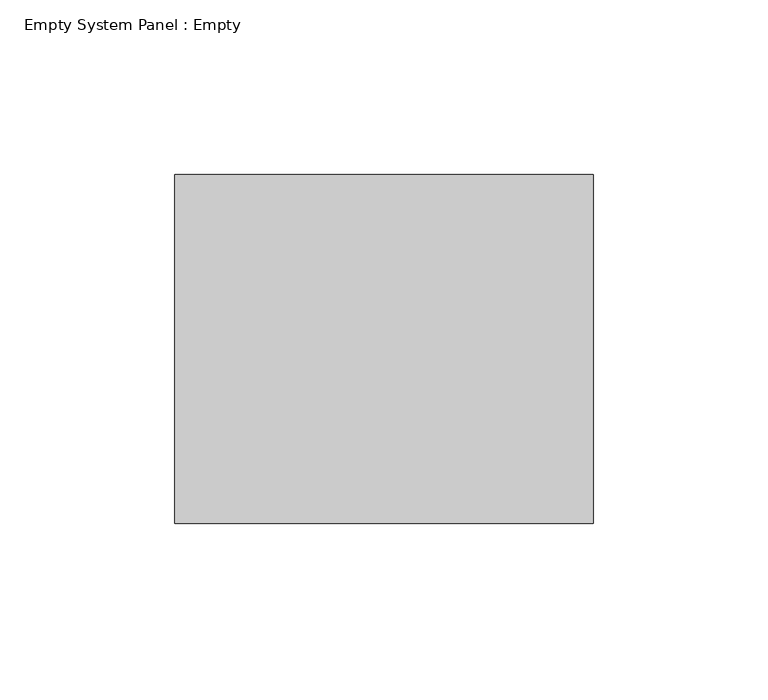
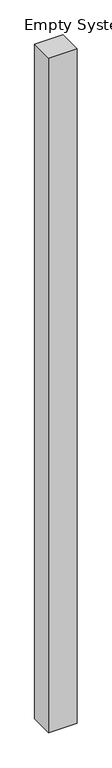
"""IFC4 building model written with IfcOpenShell, lengths in millimetres: plate geometry, Empty System Panel : Empty."""

from ifc_helpers import new_model, si_unit, origin, origin_with_axes, place, context, project, spatial, polyline, outline, extrude, source, transform, mapped, element, save


def empty_system_panel_empty_fc5d9536(model_context):
    return source(origin(), model_context, "Body", "SweptSolid", [
        extrude(outline(polyline([(60.0000002, 50.0), (-60.0000002, 50.0), (-60.0000002, 150.0), (60.0000002, 150.0), (60.0000002, 50.0)])), origin_with_axes(), (0.0, 0.0, 1.0), 3000.0),
    ])


if __name__ == "__main__":
    model = new_model("IFC4")
    model_context = context("Model", 3, world=origin())
    ifc_project = project(units=[si_unit("LENGTHUNIT", "METRE", prefix="MILLI")], contexts=[model_context])
    site = spatial("IfcSite", under=ifc_project)
    building = spatial("IfcBuilding", under=site)
    placement = place(None, origin())
    empty_system_panel_empty_shape = empty_system_panel_empty_fc5d9536(model_context)
    element("IfcPlate", 1, ObjectType="Empty System Panel : Empty", at=placement, inside=building, context=model_context, shape_type="MappedRepresentation", body=[
        mapped(empty_system_panel_empty_shape, transform((0.0, 0.0, 0.0), x_axis=(1.0, 0.0, 0.0), y_axis=(0.0, 1.0, 0.0), z_axis=(0.0, 0.0, 1.0))),
    ])
    save(model, "model.ifc")
